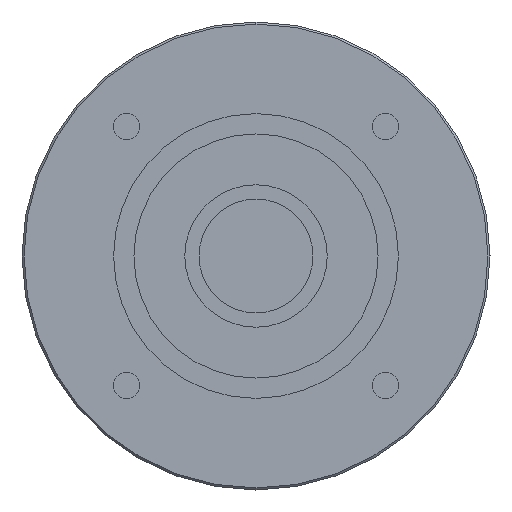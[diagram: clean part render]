
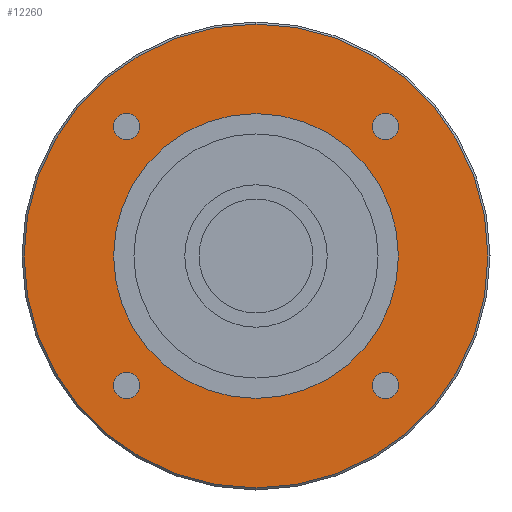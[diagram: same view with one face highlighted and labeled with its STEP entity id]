
A CAD part, left-side view. The second image highlights one B-rep face of the part: STEP entity #12260.
In plain terms, the highlighted planar face has unit normal (-1, 0, 0) as drawn and (0, 0, -1) by its records, which use the part's own axes.
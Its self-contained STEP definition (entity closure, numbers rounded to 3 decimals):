
#11090=CARTESIAN_POINT('',(0.,57.,-65.6));
#11100=VERTEX_POINT('',#11090);
#11130=CARTESIAN_POINT('',(0.,0.,
-65.6));
#11140=DIRECTION('',(0.,0.,-1.));
#11150=DIRECTION('',(1.,0.,0.));
#11160=AXIS2_PLACEMENT_3D('',#11130,#11140,#11150);
#11170=CIRCLE('',#11160,57.);
#11180=CARTESIAN_POINT('',(57.,0.,-65.6));
#11190=VERTEX_POINT('',#11180);
#11200=EDGE_CURVE('',#11100,#11190,#11170,.T.);
#11220=CARTESIAN_POINT('',(0.,-57.,-65.6));
#11230=VERTEX_POINT('',#11220);
#11240=EDGE_CURVE('',#11190,#11230,#11170,.T.);
#11400=CARTESIAN_POINT('',(0.,0.,
-65.6));
#11410=DIRECTION('',(0.,0.,-1.));
#11420=DIRECTION('',(1.,0.,0.));
#11430=AXIS2_PLACEMENT_3D('',#11400,#11410,#11420);
#11440=PLANE('',#11430);
#11450=CARTESIAN_POINT('',(-31.82,-31.82,-65.6));
#11460=DIRECTION('',(0.,0.,-1.));
#11470=DIRECTION('',(1.,0.,0.));
#11480=AXIS2_PLACEMENT_3D('',#11450,#11460,#11470);
#11490=CIRCLE('',#11480,3.25);
#11500=CARTESIAN_POINT('',(-28.57,-31.82,-65.6));
#11510=VERTEX_POINT('',#11500);
#11520=CARTESIAN_POINT('',(-35.07,-31.82,-65.6));
#11530=VERTEX_POINT('',#11520);
#11540=EDGE_CURVE('',#11510,#11530,#11490,.T.);
#11550=ORIENTED_EDGE('',*,*,#11540,.F.);
#11560=EDGE_CURVE('',#11530,#11510,#11490,.T.);
#11570=ORIENTED_EDGE('',*,*,#11560,.F.);
#11580=EDGE_LOOP('',(#11570,#11550));
#11590=FACE_BOUND('',#11580,.T.);
#11600=CARTESIAN_POINT('',(-31.82,31.82,-65.6));
#11610=DIRECTION('',(0.,0.,-1.));
#11620=DIRECTION('',(1.,0.,0.));
#11630=AXIS2_PLACEMENT_3D('',#11600,#11610,#11620);
#11640=CIRCLE('',#11630,3.25);
#11650=CARTESIAN_POINT('',(-28.57,31.82,-65.6));
#11660=VERTEX_POINT('',#11650);
#11670=CARTESIAN_POINT('',(-35.07,31.82,-65.6));
#11680=VERTEX_POINT('',#11670);
#11690=EDGE_CURVE('',#11660,#11680,#11640,.T.);
#11700=ORIENTED_EDGE('',*,*,#11690,.F.);
#11710=EDGE_CURVE('',#11680,#11660,#11640,.T.);
#11720=ORIENTED_EDGE('',*,*,#11710,.F.);
#11730=EDGE_LOOP('',(#11720,#11700));
#11740=FACE_BOUND('',#11730,.T.);
#11750=CARTESIAN_POINT('',(31.82,31.82,-65.6));
#11760=DIRECTION('',(0.,0.,-1.));
#11770=DIRECTION('',(1.,0.,0.));
#11780=AXIS2_PLACEMENT_3D('',#11750,#11760,#11770);
#11790=CIRCLE('',#11780,3.25);
#11800=CARTESIAN_POINT('',(35.07,31.82,-65.6));
#11810=VERTEX_POINT('',#11800);
#11820=CARTESIAN_POINT('',(28.57,31.82,-65.6));
#11830=VERTEX_POINT('',#11820);
#11840=EDGE_CURVE('',#11810,#11830,#11790,.T.);
#11850=ORIENTED_EDGE('',*,*,#11840,.F.);
#11860=EDGE_CURVE('',#11830,#11810,#11790,.T.);
#11870=ORIENTED_EDGE('',*,*,#11860,.F.);
#11880=EDGE_LOOP('',(#11870,#11850));
#11890=FACE_BOUND('',#11880,.T.);
#11900=CARTESIAN_POINT('',(31.82,-31.82,-65.6));
#11910=DIRECTION('',(0.,0.,-1.));
#11920=DIRECTION('',(1.,0.,0.));
#11930=AXIS2_PLACEMENT_3D('',#11900,#11910,#11920);
#11940=CIRCLE('',#11930,3.25);
#11950=CARTESIAN_POINT('',(35.07,-31.82,-65.6));
#11960=VERTEX_POINT('',#11950);
#11970=CARTESIAN_POINT('',(28.57,-31.82,-65.6));
#11980=VERTEX_POINT('',#11970);
#11990=EDGE_CURVE('',#11960,#11980,#11940,.T.);
#12000=ORIENTED_EDGE('',*,*,#11990,.F.);
#12010=EDGE_CURVE('',#11980,#11960,#11940,.T.);
#12020=ORIENTED_EDGE('',*,*,#12010,.F.);
#12030=EDGE_LOOP('',(#12020,#12000));
#12040=FACE_BOUND('',#12030,.T.);
#12050=EDGE_CURVE('',#11230,#11100,#11170,.T.);
#12060=ORIENTED_EDGE('',*,*,#12050,.T.);
#12070=ORIENTED_EDGE('',*,*,#11240,.T.);
#12080=ORIENTED_EDGE('',*,*,#11200,.T.);
#12090=EDGE_LOOP('',(#12080,#12070,#12060));
#12100=FACE_OUTER_BOUND('',#12090,.T.);
#12110=CARTESIAN_POINT('',(0.,0.,
-65.6));
#12120=DIRECTION('',(0.,0.,1.));
#12130=DIRECTION('',(1.,0.,0.));
#12140=AXIS2_PLACEMENT_3D('',#12110,#12120,#12130);
#12150=CIRCLE('',#12140,35.);
#12160=CARTESIAN_POINT('',(35.,0.,-65.6));
#12170=VERTEX_POINT('',#12160);
#12180=CARTESIAN_POINT('',(-35.,0.,-65.6));
#12190=VERTEX_POINT('',#12180);
#12200=EDGE_CURVE('',#12170,#12190,#12150,.T.);
#12210=ORIENTED_EDGE('',*,*,#12200,.T.);
#12220=EDGE_CURVE('',#12190,#12170,#12150,.T.);
#12230=ORIENTED_EDGE('',*,*,#12220,.T.);
#12240=EDGE_LOOP('',(#12230,#12210));
#12250=FACE_BOUND('',#12240,.T.);
#12260=ADVANCED_FACE('',(#11590,#11740,#11890,#12040,#12100,#12250),
#11440,.T.);
